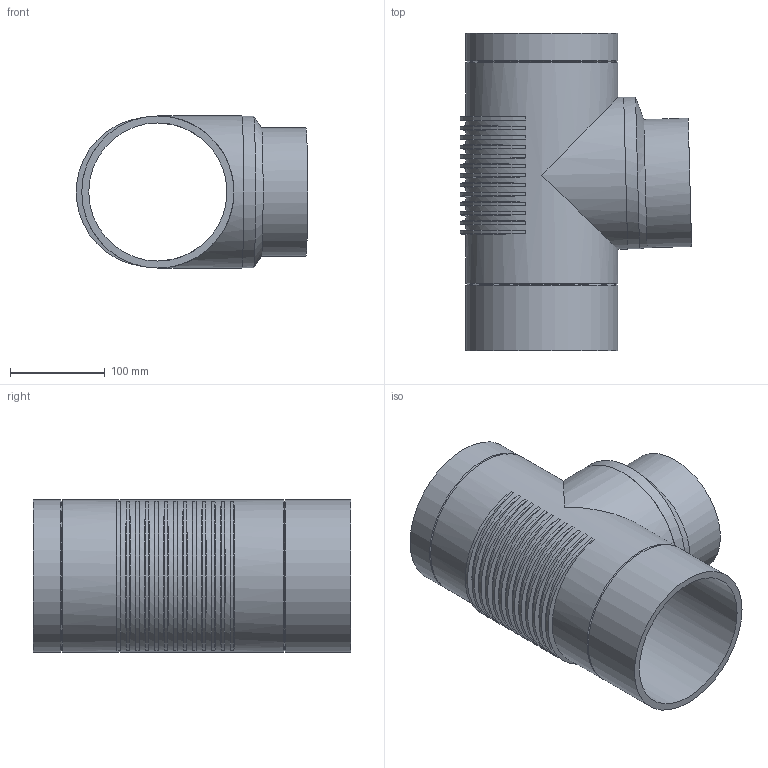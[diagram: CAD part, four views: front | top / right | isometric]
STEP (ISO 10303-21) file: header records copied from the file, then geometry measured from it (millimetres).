
FILE_DESCRIPTION(/* description */ (''),/* implementation_level */ '2;1');
FILE_NAME(/* name */ 'Z:\Geberit\Export\NewStep\315128.stp',/* time_stamp */ '2014-04-01T20:14:55+02:00',/* author */ ('ML'),/* organization */ (''),/* preprocessor_version */ 'ST-DEVELOPER v15.2',/* originating_system */ 'Autodesk Inventor 2014',/* authorisation */ '');
FILE_SCHEMA (('AUTOMOTIVE_DESIGN { 1 0 10303 214 3 1 1 }'));
Length unit declared in the file: millimetre
Products named in the file (3): 862529; 862530; 315128
Bounding box: 243.97 x 335 x 160.47 mm (x, y, z)
Volume: 1382894.6 mm3; surface area: 416178.8 mm2
Topology: 2 solids, 2 shells, 60 faces, 158 edges, 115 vertices
Faces by surface type: cone 30, cylinder 23, plane 5, bspline 2
Full cylindrical faces by diameter (mm): 122.95 x1, 135.45 x1, 145.3 x1, 145.775 x2, 160 x1, 160.475 x4
Entity records: 2656 total; most frequent: CARTESIAN_POINT 1229, ORIENTED_EDGE 272, DIRECTION 264, EDGE_CURVE 136, AXIS2_PLACEMENT_3D 119, VERTEX_POINT 108, EDGE_LOOP 94, ADVANCED_FACE 60
